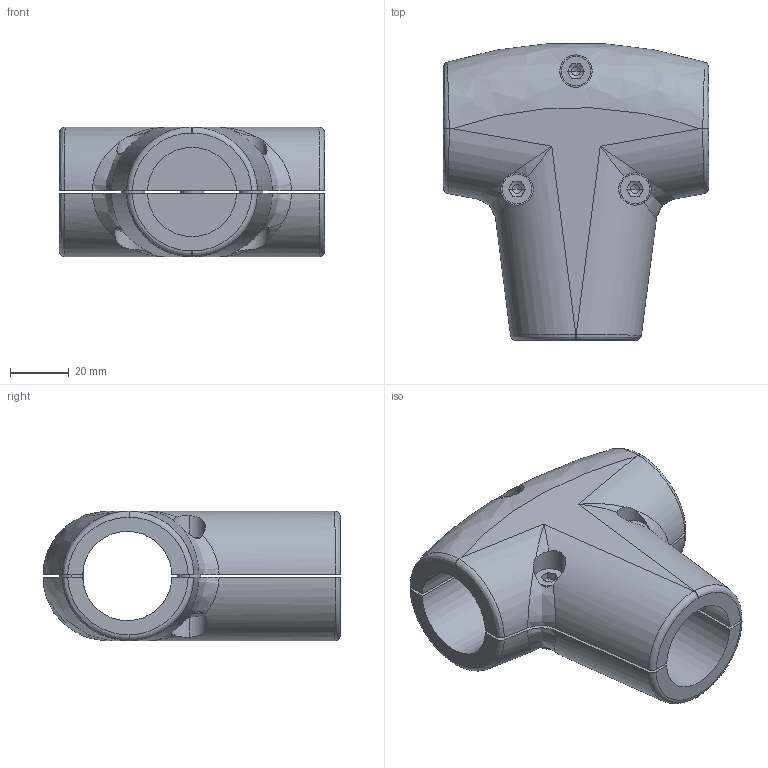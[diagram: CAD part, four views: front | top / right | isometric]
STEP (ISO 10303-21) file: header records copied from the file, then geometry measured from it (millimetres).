
FILE_DESCRIPTION (( 'STEP AP214' ), '1' );
FILE_NAME ('31000410059.STEP', '2024-09-02T09:50:33', ( '' ), ( '' ), 'SwSTEP 2.0', 'SolidWorks 2016', '' );
FILE_SCHEMA (( 'AUTOMOTIVE_DESIGN' ));
Length unit declared in the file: millimetre
Products named in the file (5): 2320_Schale 1; DIN 6912  (Regelgewinde) M6 x 16_1; 31000410059; 635179_H³lsenmutter_3; 2320_Schale 2
Assembly tree (8 placements, depth 2):
  31000410059
    2320_Schale 1
    2320_Schale 2
    635179_H³lsenmutter_3  x3
    DIN 6912  (Regelgewinde) M6 x 16_1  x3
Bounding box: 90 x 100.73 x 44 mm (x, y, z)
Volume: 156441.2 mm3; surface area: 47323.2 mm2
Topology: 8 solids, 8 shells, 192 faces, 478 edges, 299 vertices
Faces by surface type: cylinder 75, plane 53, cone 30, bspline 28, sphere 6
Entity records: 11263 total; most frequent: CARTESIAN_POINT 7068, ORIENTED_EDGE 604, DIRECTION 490, EDGE_CURVE 302, VERTEX_POINT 197, AXIS2_PLACEMENT_3D 194, EDGE_LOOP 135, UNCERTAINTY_MEASURE_WITH_UNIT 131
